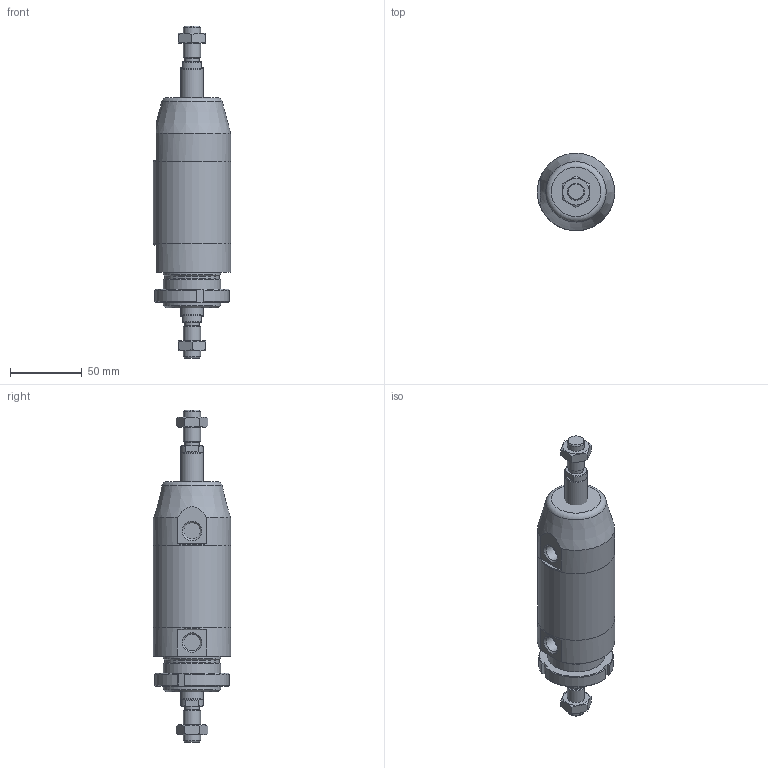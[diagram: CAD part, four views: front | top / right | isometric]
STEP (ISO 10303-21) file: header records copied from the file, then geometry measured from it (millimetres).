
FILE_DESCRIPTION(/* description */ (''),/* implementation_level */ '2;1');
FILE_NAME(/* name */ 'I:\Area Tecnica\Documenti\A-Manieri\_Inventor\12X\12X#T_###_####_#_#\12XCT_050_0015_#_#.stp',/* time_stamp */ '2015-05-13T08:45:52+02:00',/* author */ ('maniean1'),/* organization */ ('Pneumax S.p.A.'),/* preprocessor_version */ 'ST-DEVELOPER v15.2',/* originating_system */ 'Autodesk Inventor 2014',/* authorisation */ '');
FILE_SCHEMA (('AUTOMOTIVE_DESIGN { 1 0 10303 214 3 1 1 }'));
Length unit declared in the file: millimetre
Products named in the file (7): C1250_619-0015; 12X50_604; SP12X50_0015; 12X_50_11; 12X50_613; G12X_050_05; 12XCT_050_0015_#_#
Bounding box: 54 x 54 x 232 mm (x, y, z)
Volume: 294689.9 mm3; surface area: 70810.2 mm2
Topology: 7 solids, 7 shells, 107 faces, 239 edges, 153 vertices
Faces by surface type: plane 54, cylinder 26, cone 26, torus 1
Full cylindrical faces by diameter (mm): 10.2 x2, 11.4 x2, 12 x4, 14 x2, 15.6 x2, 16 x2, 38.2 x1, 40 x3, 50 x2, 54 x3
Entity records: 2546 total; most frequent: CARTESIAN_POINT 474, DIRECTION 433, ORIENTED_EDGE 338, AXIS2_PLACEMENT_3D 187, EDGE_CURVE 169, EDGE_LOOP 150, VERTEX_POINT 129, ADVANCED_FACE 96
